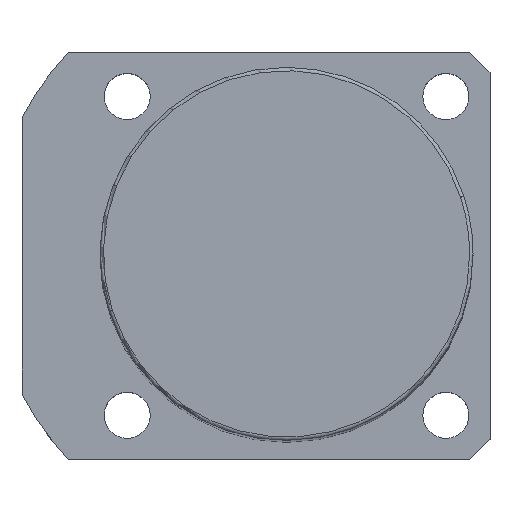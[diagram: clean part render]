
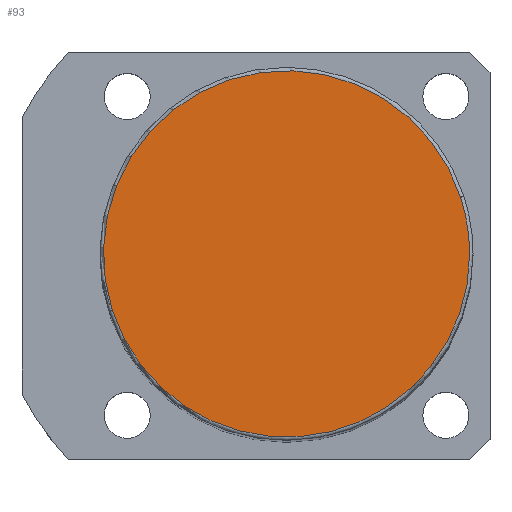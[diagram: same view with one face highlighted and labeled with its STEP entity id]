
A CAD part, top view. The second image highlights one B-rep face of the part: STEP entity #93.
In plain terms, the highlighted planar face has unit normal (0, 0, 1).
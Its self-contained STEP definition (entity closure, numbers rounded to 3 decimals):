
#16=CARTESIAN_POINT('',(25.679,8.343,181.0));
#17=VERTEX_POINT('',#16);
#45=CARTESIAN_POINT('',(-25.679,-8.343,181.0));
#46=VERTEX_POINT('',#45);
#54=CARTESIAN_POINT('',(0.0,0.0,181.0));
#55=DIRECTION('',(0.0,0.0,1.0));
#56=DIRECTION('',(1.0,0.0,0.0));
#57=AXIS2_PLACEMENT_3D('',#54,#55,#56);
#58=CIRCLE('',#57,27.0);
#59=EDGE_CURVE('no 890',#17,#46,#58,.T.);
#69=CARTESIAN_POINT('',(27.0,0.0,181.0));
#70=VERTEX_POINT('',#69);
#71=CARTESIAN_POINT('',(0.0,0.0,181.0));
#72=DIRECTION('',(0.0,0.0,1.0));
#73=DIRECTION('',(1.0,0.0,0.0));
#74=AXIS2_PLACEMENT_3D('',#71,#72,#73);
#75=CIRCLE('',#74,27.0);
#76=EDGE_CURVE('no 899',#70,#17,#75,.T.);
#77=ORIENTED_EDGE('',*,*,#76,.T.);
#78=ORIENTED_EDGE('',*,*,#59,.T.);
#79=CARTESIAN_POINT('',(0.0,0.0,181.0));
#80=DIRECTION('',(0.0,0.0,1.0));
#81=DIRECTION('',(1.0,0.0,0.0));
#82=AXIS2_PLACEMENT_3D('',#79,#80,#81);
#83=CIRCLE('',#82,27.0);
#84=EDGE_CURVE('no 905',#46,#70,#83,.T.);
#85=ORIENTED_EDGE('',*,*,#84,.T.);
#86=EDGE_LOOP('',(#77,#78,#85));
#87=FACE_OUTER_BOUND('',#86,.T.);
#88=CARTESIAN_POINT('',(0.0,0.0,181.0));
#89=DIRECTION('',(0.0,0.0,1.0));
#90=DIRECTION('',(1.0,0.0,0.0));
#91=AXIS2_PLACEMENT_3D('',#88,#89,#90);
#92=PLANE('',#91);
#93=ADVANCED_FACE('no 892',(#87),#92,.T.);
